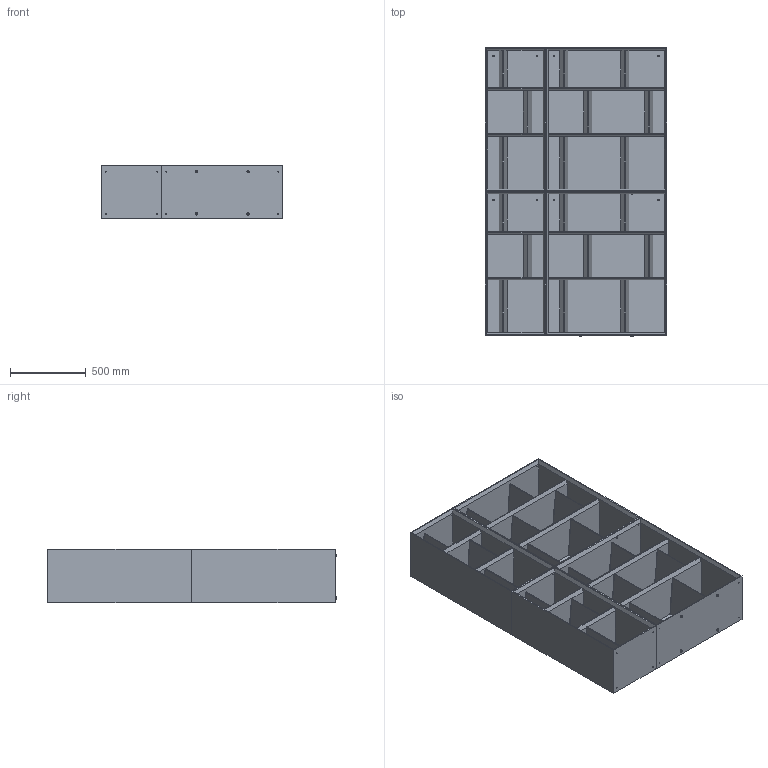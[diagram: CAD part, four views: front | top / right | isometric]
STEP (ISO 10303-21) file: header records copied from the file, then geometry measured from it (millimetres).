
FILE_DESCRIPTION (( 'STEP AP203' ), '1' );
FILE_NAME ('BL31S_Bendy Ax2+Bx2_120x35x190h.STEP', '2024-08-06T08:31:57', ( '' ), ( '' ), 'SwSTEP 2.0', 'SolidWorks 2022', '' );
FILE_SCHEMA (( 'CONFIG_CONTROL_DESIGN' ));
Length unit declared in the file: millimetre
Products named in the file (10): M5xXXmm_M5X14mm; BEx00000-01-BENDY Struttura tutte le dimensioni_bendy B 40x95cm<A macchina>; BEx00000-01-BENDY Struttura tutte le dimensioni_bendy A 80x95cm<A macchina>; BED000001-00-TRIANGOLO DIVISORIO_H.356; piedino M5; BEA00000-00-ASSIEME bendy 80x95_DEFAULT; BEB00000-00-ASSIEME bendy 40x95cm_bendy B 40x95cm; BED000001-00-TRIANGOLO DIVISORIO_H.292; BED000001-00-TRIANGOLO DIVISORIO_H.256; BL31S_Bendy Ax2+Bx2_120x35x190h
Assembly tree (20 placements, depth 3):
  BL31S_Bendy Ax2+Bx2_120x35x190h
    BEA00000-00-ASSIEME bendy 80x95_DEFAULT  x2
      BEx00000-01-BENDY Struttura tutte le dimensioni_bendy A 80x95cm<A macchina>
      BED000001-00-TRIANGOLO DIVISORIO_H.356
      BED000001-00-TRIANGOLO DIVISORIO_H.292
      BED000001-00-TRIANGOLO DIVISORIO_H.256
    BEB00000-00-ASSIEME bendy 40x95cm_bendy B 40x95cm  x2
      BEx00000-01-BENDY Struttura tutte le dimensioni_bendy B 40x95cm<A macchina>
      BED000001-00-TRIANGOLO DIVISORIO_H.356
      BED000001-00-TRIANGOLO DIVISORIO_H.292
      BED000001-00-TRIANGOLO DIVISORIO_H.256
    M5xXXmm_M5X14mm
    piedino M5  x4
Bounding box: 1200 x 1907 x 350 mm (x, y, z)
Volume: 120941993.5 mm3; surface area: 22622625.8 mm2
Topology: 55 solids, 55 shells, 1205 faces, 2860 edges, 1752 vertices
Faces by surface type: plane 738, cylinder 364, cone 83, torus 20
Entity records: 15683 total; most frequent: DIRECTION 2543, CARTESIAN_POINT 2511, ORIENTED_EDGE 2360, EDGE_CURVE 1180, AXIS2_PLACEMENT_3D 858, VECTOR 827, LINE 827, VERTEX_POINT 740
